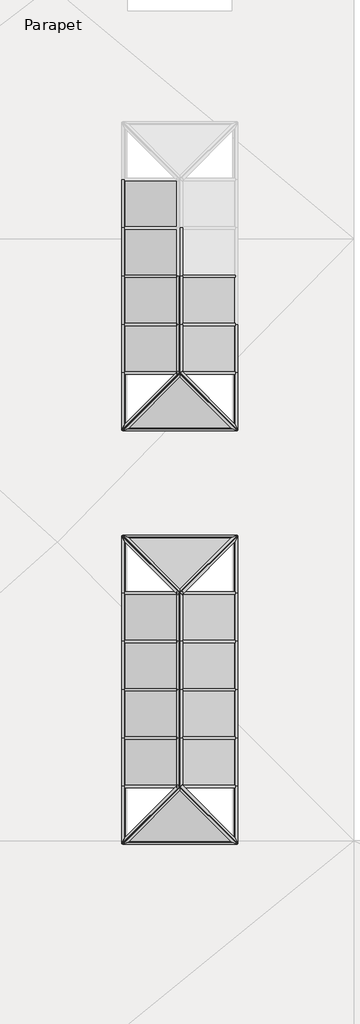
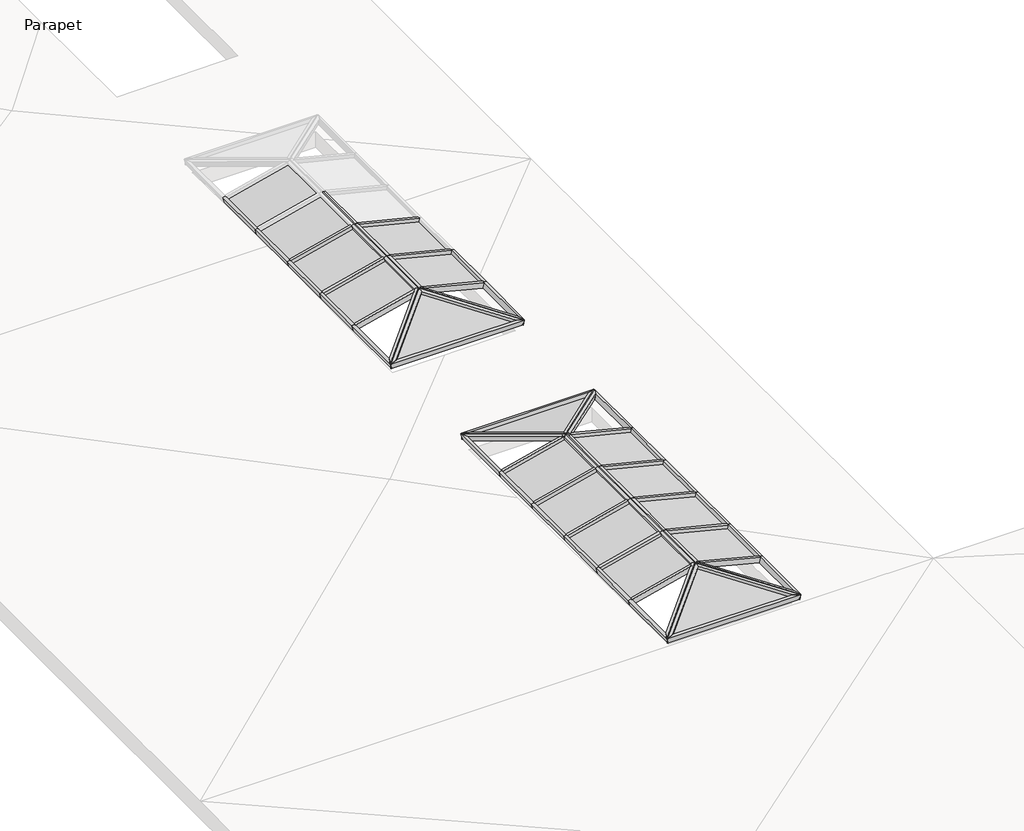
# One storey, part 1 of 2: 63 members, 17 plates.
"""IFC4 building model written with IfcOpenShell, lengths in millimetres."""

import ifcopenshell
import ifcopenshell.guid

model = None  # the IFC model being written
_history = None  # IfcOwnerHistory: only IFC2X3 demands one
_inside = {}  # id of a spatial element -> (the spatial element, [elements in it])
_under = {}  # id of a project, library or spatial element -> (it, [spatial elements below it])
_declared = {}  # id of a project -> (the project, [libraries it declares])
_typed = {}  # id of a type object -> (the type object, [elements of that type])
_made_of = {}  # id of a material, layer set ... -> (it, [elements and type objects made of it])


def new_model(schema):
    """Start an empty IFC model of exactly this schema.

    Asked for "IFC4X3", IfcOpenShell would pick the latest addendum, in which some entities
    have other attributes; the version numbers below select the first issue.
    IFC2X3 requires an IfcOwnerHistory on every rooted entity: one is made here for all.
    """
    global model, _history
    if schema == "IFC4X3":
        model = ifcopenshell.file(schema_version=(4, 3, 0, 0))
    else:
        model = ifcopenshell.file(schema=schema)
    _inside.clear()
    _under.clear()
    _declared.clear()
    _typed.clear()
    _made_of.clear()
    _history = None
    if model.schema == "IFC2X3":
        org = make("IfcOrganization", Name="unknown")
        user = make(
            "IfcPersonAndOrganization",
            ThePerson=make("IfcPerson", FamilyName="unknown"),
            TheOrganization=org,
        )
        app = make(
            "IfcApplication",
            ApplicationDeveloper=org,
            Version="unknown",
            ApplicationFullName="unknown",
            ApplicationIdentifier="unknown",
        )
        _history = make(
            "IfcOwnerHistory",
            OwningUser=user,
            OwningApplication=app,
            ChangeAction="ADDED",
            CreationDate=0,
        )
    return model


def make(cls, **values):
    """One entity of the class cls with the attributes given. An attribute that is None is left unset."""
    return model.create_entity(
        cls, **{name: value for name, value in values.items() if value is not None}
    )


def rooted(cls, **values):
    """An entity with a GlobalId (a new one), such as an element, a storey or a relation."""
    return make(cls, GlobalId=ifcopenshell.guid.new(), OwnerHistory=_history, **values)


def si_unit(unit_type, name, prefix=None):
    """IfcSIUnit, for example si_unit("LENGTHUNIT", "METRE", prefix="MILLI")."""
    return make("IfcSIUnit", UnitType=unit_type, Prefix=prefix, Name=name)


def assignment(units):
    """IfcUnitAssignment: the units of a project."""
    return None if units is None else make("IfcUnitAssignment", Units=units)


def point(xyz):
    """IfcCartesianPoint."""
    return None if xyz is None else make("IfcCartesianPoint", Coordinates=xyz)


def direction(xyz):
    """IfcDirection."""
    return None if xyz is None else make("IfcDirection", DirectionRatios=xyz)


def frame(location, z_axis=None, x_axis=None):
    """IfcAxis2Placement3D, a coordinate frame: its origin and axes. An axis left out is left unset."""
    return make(
        "IfcAxis2Placement3D",
        Location=point(location),
        Axis=direction(z_axis),
        RefDirection=direction(x_axis),
    )


def origin():
    """The frame at (0, 0, 0) with its axes left unset."""
    return frame((0.0, 0.0, 0.0))


def origin_with_axes():
    """The frame at (0, 0, 0) with the z axis (0, 0, 1) and the x axis (1, 0, 0) written out."""
    return frame((0.0, 0.0, 0.0), z_axis=(0.0, 0.0, 1.0), x_axis=(1.0, 0.0, 0.0))


def place(relative_to, where):
    """IfcLocalPlacement: puts the frame where relative to a parent placement (None: the world)."""
    return make(
        "IfcLocalPlacement", PlacementRelTo=relative_to, RelativePlacement=where
    )


def context(
    kind, dimensions, precision=None, world=None, true_north=None, identifier=None
):
    """IfcGeometricRepresentationContext, for example the 3D "Model" context."""
    return make(
        "IfcGeometricRepresentationContext",
        ContextIdentifier=identifier,
        ContextType=kind,
        CoordinateSpaceDimension=dimensions,
        Precision=precision,
        WorldCoordinateSystem=world,
        TrueNorth=true_north,
    )


def project(units=None, contexts=None):
    """IfcProject with its units and contexts."""
    return rooted(
        "IfcProject",
        Name="project",
        RepresentationContexts=contexts,
        UnitsInContext=assignment(units),
    )


def spatial(cls, under=None, at=None, **own):
    """A site, building, storey or space (cls), placed at a placement, below another one or the project."""
    s = rooted(cls, ObjectPlacement=at, **own)
    if under is not None:
        _under.setdefault(under.id(), (under, []))[1].append(s)
    return s


def polyline(points):
    """IfcPolyline through the points."""
    return make("IfcPolyline", Points=[point(p) for p in points])


def outline(outer, holes=None, kind="AREA"):
    """IfcArbitraryClosedProfileDef: a profile drawn as a closed curve; with holes, ...WithVoids."""
    if holes is None:
        return make("IfcArbitraryClosedProfileDef", ProfileType=kind, OuterCurve=outer)
    return make(
        "IfcArbitraryProfileDefWithVoids",
        ProfileType=kind,
        OuterCurve=outer,
        InnerCurves=holes,
    )


def extrude(swept, where, along, depth):
    """IfcExtrudedAreaSolid: the profile swept, set in the frame where, extruded along a direction by depth."""
    return make(
        "IfcExtrudedAreaSolid",
        SweptArea=swept,
        Position=where,
        ExtrudedDirection=direction(along),
        Depth=depth,
    )


def shape(context_of_items, identifier, shape_type, items):
    """IfcShapeRepresentation: the items that make up one representation, for example the "Body"."""
    return make(
        "IfcShapeRepresentation",
        ContextOfItems=context_of_items,
        RepresentationIdentifier=identifier,
        RepresentationType=shape_type,
        Items=items,
    )


def source(mapping_origin, context_of_items, identifier, shape_type, items):
    """IfcRepresentationMap: a shape defined once, which mapped items show again and again."""
    return make(
        "IfcRepresentationMap",
        MappingOrigin=mapping_origin,
        MappedRepresentation=shape(context_of_items, identifier, shape_type, items),
    )


def transform(
    local_origin,
    x_axis=None,
    y_axis=None,
    z_axis=None,
    scale=None,
    scale2=None,
    scale3=None,
    uniform=True,
):
    """IfcCartesianTransformationOperator3D, or its non-uniform kind. x_axis, y_axis, z_axis: its Axis1, 2, 3."""
    if uniform:
        return make(
            "IfcCartesianTransformationOperator3D",
            Axis1=direction(x_axis),
            Axis2=direction(y_axis),
            LocalOrigin=point(local_origin),
            Scale=scale,
            Axis3=direction(z_axis),
        )
    return make(
        "IfcCartesianTransformationOperator3DnonUniform",
        Axis1=direction(x_axis),
        Axis2=direction(y_axis),
        LocalOrigin=point(local_origin),
        Scale=scale,
        Axis3=direction(z_axis),
        Scale2=scale2,
        Scale3=scale3,
    )


def mapped(mapping_source, mapping_target):
    """IfcMappedItem: shows the shape of a source again, moved by a transform."""
    return make(
        "IfcMappedItem", MappingSource=mapping_source, MappingTarget=mapping_target
    )


def made_of(thing, what):
    """Note that an element or type object is made of a material, layer set ...; save() writes the relation."""
    if what is not None:
        _made_of.setdefault(what.id(), (what, []))[1].append(thing)
    return thing


def element(
    cls,
    number,
    at=None,
    inside=None,
    cuts=None,
    type_object=None,
    material=None,
    context=None,
    identifier="Body",
    shape_type=None,
    held_by="IfcProductDefinitionShape",
    body=None,
    shapes=None,
    **own,
):
    """One element of the class cls, such as IfcWall. Its Tag is "e" and its number.

    at: its placement. inside: the storey or other place that contains it. cuts: it is an
    opening in that element (IfcRelVoidsElement). A single representation is given by context,
    identifier, shape_type and body (its items); several are given by shapes. held_by: the class
    of the entity that holds the representations. save() writes the other relations.
    """
    e = rooted(cls, Tag="e%d" % number, ObjectPlacement=at, **own)
    if body is not None:
        shapes = [shape(context, identifier, shape_type, body)]
    if shapes is not None:
        e.Representation = make(held_by, Representations=shapes)
    if inside is not None:
        _inside.setdefault(inside.id(), (inside, []))[1].append(e)
    if cuts is not None:
        rooted(
            "IfcRelVoidsElement", RelatingBuildingElement=cuts, RelatedOpeningElement=e
        )
    if type_object is not None:
        _typed.setdefault(type_object.id(), (type_object, []))[1].append(e)
    return made_of(e, material)


def aggregate(whole, parts):
    """IfcRelAggregates: a whole, such as a stair, and the parts it consists of."""
    return rooted("IfcRelAggregates", RelatingObject=whole, RelatedObjects=parts)


def save(model, path):
    """Write the relations noted so far, then the file.

    IfcRelAggregates (storeys below a building ...), IfcRelContainedInSpatialStructure (elements
    in a storey), IfcRelDefinesByType, IfcRelAssociatesMaterial and IfcRelDeclares: one each for
    every whole, place, type object, material and project.
    """
    for whole, parts in _under.values():
        aggregate(whole, parts)
    for where, things in _inside.values():
        rooted(
            "IfcRelContainedInSpatialStructure",
            RelatedElements=things,
            RelatingStructure=where,
        )
    for kind, things in _typed.values():
        rooted("IfcRelDefinesByType", RelatedObjects=things, RelatingType=kind)
    for what, things in _made_of.values():
        rooted("IfcRelAssociatesMaterial", RelatedObjects=things, RelatingMaterial=what)
    for by, libraries in _declared.values():
        rooted("IfcRelDeclares", RelatingContext=by, RelatedDefinitions=libraries)
    model.write(path)


def member_01a96303(model_context):
    return source(origin(), model_context, "Body", "SweptSolid", [
        extrude(outline(polyline([(31.75, 63.5), (31.75, -63.5), (-31.75, -63.5), (-31.75, 63.5), (31.75, 63.5)])), frame((0.0, 0.0, -1441.8416906), z_axis=(0.0, 0.0, 1.0), x_axis=(1.0, 0.0, 0.0)), (0.0, 0.0, 1.0), 1441.8416906),
    ])


def member_1078ffe1(model_context):
    return source(origin(), model_context, "Body", "SweptSolid", [
        extrude(outline(polyline([(0.0, 0.0), (-150.0761281, -63.5), (-1524.0, -63.5), (-1524.0, 0.0), (0.0, 0.0)])), frame((0.0, -63.5, 0.0), z_axis=(0.0, 1.0, 0.0), x_axis=(0.0, 0.0, 1.0)), (0.0, 0.0, 1.0), 127.0),
    ])


def member_190da285(model_context):
    return source(origin(), model_context, "Body", "SweptSolid", [
        extrude(outline(polyline([(0.0, 0.0), (-150.0761281, -63.5), (-2185.8060871, -63.5), (-2185.8060871, 0.0), (0.0, 0.0)])), frame((0.0, -63.5, 0.0), z_axis=(0.0, 1.0, 0.0), x_axis=(0.0, 0.0, 1.0)), (0.0, 0.0, 1.0), 127.0),
    ])


def member_63bf33d2(model_context):
    return source(origin(), model_context, "Body", "SweptSolid", [
        extrude(outline(polyline([(0.0, 0.0), (0.0, -63.5), (-2035.729959, -63.5), (-2185.8060871, 0.0), (0.0, 0.0)])), frame((0.0, -63.5, 0.0), z_axis=(0.0, 1.0, 0.0), x_axis=(0.0, 0.0, 1.0)), (0.0, 0.0, 1.0), 127.0),
    ])


def member_51997095(model_context):
    return source(origin(), model_context, "Body", "SweptSolid", [
        extrude(outline(polyline([(0.0, 63.5), (0.0, -63.5), (-63.5, -63.5), (-63.5, 63.5), (0.0, 63.5)])), frame((0.0, 0.0, -1314.45), z_axis=(0.0, 0.0, 1.0), x_axis=(1.0, 0.0, 0.0)), (0.0, 0.0, 1.0), 1314.45),
    ])


def member_5783932f(model_context):
    return source(origin(), model_context, "Body", "SweptSolid", [
        extrude(outline(polyline([(0.0, 63.5), (0.0, -63.5), (-63.5, -63.5), (-63.5, 63.5), (0.0, 63.5)])), frame((0.0, 0.0, -1282.7), z_axis=(0.0, 0.0, 1.0), x_axis=(1.0, 0.0, 0.0)), (0.0, 0.0, 1.0), 1282.7),
    ])


def member_8e9367d3(model_context):
    return source(origin(), model_context, "Body", "SweptSolid", [
        extrude(outline(polyline([(0.0, 0.0), (0.0, -63.5), (-1373.9238719, -63.5), (-1524.0, 0.0), (0.0, 0.0)])), frame((0.0, -63.5, 0.0), z_axis=(0.0, 1.0, 0.0), x_axis=(0.0, 0.0, 1.0)), (0.0, 0.0, 1.0), 127.0),
    ])


def member_bf957473(model_context):
    return source(origin(), model_context, "Body", "SweptSolid", [
        extrude(outline(polyline([(0.0, 0.0), (-150.0761281, -63.5), (-2120.3517853, -63.5), (-2185.8060871, 0.0), (0.0, 0.0)])), frame((0.0, -63.5, 0.0), z_axis=(0.0, 1.0, 0.0), x_axis=(0.0, 0.0, 1.0)), (0.0, 0.0, 1.0), 127.0),
    ])


def member_35848865(model_context):
    return source(origin(), model_context, "Body", "SweptSolid", [
        extrude(outline(polyline([(0.0, 0.0), (-65.4543018, -63.5), (-2035.729959, -63.5), (-2185.8060871, 0.0), (0.0, 0.0)])), frame((0.0, -63.5, 0.0), z_axis=(0.0, 1.0, 0.0), x_axis=(0.0, 0.0, 1.0)), (0.0, 0.0, 1.0), 127.0),
    ])


def member_aca151d9(model_context):
    return source(origin(), model_context, "Body", "SweptSolid", [
        extrude(outline(polyline([(0.0, 0.0), (-150.0761281, -63.5), (-2893.923872, -63.5), (-3044.0000001, 0.0), (0.0, 0.0)])), frame((0.0, -63.5, 0.0), z_axis=(0.0, 1.0, 0.0), x_axis=(0.0, 0.0, 1.0)), (0.0, 0.0, 1.0), 127.0),
    ])


def system_panel_glazed_08fbef77(model_context):
    return source(origin(), model_context, "Body", "SweptSolid", [
        extrude(outline(polyline([(609.6, 19.05), (-609.6, 19.05), (-609.6, 44.45), (609.6, 44.45), (609.6, 19.05)])), origin_with_axes(), (0.0, 0.0, 1.0), 1441.8416906),
    ])


def system_panel_glazed_1440a41f(model_context):
    return source(origin(), model_context, "Body", "SweptSolid", [
        extrude(outline(polyline([(0.0, -1371.923872), (0.0, 1371.923872), (1414.1467586, 0.0), (0.0, -1371.923872)])), frame((0.0, 19.05, 0.0), z_axis=(0.0, 1.0, 0.0), x_axis=(0.0, 0.0, 1.0)), (0.0, 0.0, 1.0), 25.4),
    ])


model = new_model("IFC4")

# Units and contexts
model_context = context("Model", 3, world=origin())
ifc_project = project(units=[si_unit("LENGTHUNIT", "METRE", prefix="MILLI")], contexts=[model_context])

# Site, building, storey
site = spatial("IfcSite", under=ifc_project)
building = spatial("IfcBuilding", under=site)
storey = spatial("IfcBuildingStorey", under=building, Name="Parapet", Elevation=11582.4)

# Members
placement = place(None, origin())
member_shape = member_01a96303(model_context)
element("IfcMember", 1, ObjectType="Rectangular Mullion : 2.5\" x 5\" rectangular", at=placement, inside=storey, context=model_context, shape_type="MappedRepresentation", body=[
    mapped(member_shape, transform((12528.5354039, 23317.5989878, 11947.4989878), x_axis=(0.0, 1.0, 0.0), y_axis=(-0.24253562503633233, 0.0, -0.9701425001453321), z_axis=(-0.9701425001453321, 0.0, 0.24253562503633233))),
])
element("IfcMember", 2, ObjectType="Rectangular Mullion : 2.5\" x 5\" rectangular", at=placement, inside=storey, context=model_context, shape_type="MappedRepresentation", body=[
    mapped(member_shape, transform((12528.5354039, 25882.9989878, 11947.4989878), x_axis=(0.0, 1.0, 0.0), y_axis=(-0.24253562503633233, 0.0, -0.9701425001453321), z_axis=(-0.9701425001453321, 0.0, 0.24253562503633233))),
])
element("IfcMember", 3, ObjectType="Rectangular Mullion : 2.5\" x 5\" rectangular", at=placement, inside=storey, context=model_context, shape_type="MappedRepresentation", body=[
    mapped(member_shape, transform((12528.5354039, 24600.2989878, 11947.4989878), x_axis=(0.0, 1.0, 0.0), y_axis=(-0.24253562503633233, 0.0, -0.9701425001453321), z_axis=(-0.9701425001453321, 0.0, 0.24253562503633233))),
])
element("IfcMember", 4, ObjectType="Rectangular Mullion : 2.5\" x 5\" rectangular", at=placement, inside=storey, context=model_context, shape_type="MappedRepresentation", body=[
    mapped(member_shape, transform((12405.3273064, 23317.5989878, 11947.4989878), x_axis=(0.0, -1.0, 0.0), y_axis=(0.24253562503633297, 0.0, -0.9701425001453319), z_axis=(0.9701425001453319, 0.0, 0.24253562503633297))),
])
element("IfcMember", 5, ObjectType="Rectangular Mullion : 2.5\" x 5\" rectangular", at=placement, inside=storey, context=model_context, shape_type="MappedRepresentation", body=[
    mapped(member_shape, transform((12405.3273064, 25882.9989878, 11947.4989878), x_axis=(0.0, -1.0, 0.0), y_axis=(0.24253562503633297, 0.0, -0.9701425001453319), z_axis=(0.9701425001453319, 0.0, 0.24253562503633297))),
])
element("IfcMember", 6, ObjectType="Rectangular Mullion : 2.5\" x 5\" rectangular", at=placement, inside=storey, context=model_context, shape_type="MappedRepresentation", body=[
    mapped(member_shape, transform((12405.3273064, 24600.2989878, 11947.4989878), x_axis=(0.0, -1.0, 0.0), y_axis=(0.24253562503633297, 0.0, -0.9701425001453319), z_axis=(0.9701425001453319, 0.0, 0.24253562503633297))),
])
element("IfcMember", 7, ObjectType="Rectangular Mullion : 2.5\" x 5\" rectangular", at=placement, inside=storey, context=model_context, shape_type="MappedRepresentation", body=[
    mapped(member_shape, transform((12528.5354039, 12344.7989878, 11947.4989878), x_axis=(0.0, 1.0, 0.0), y_axis=(-0.24253562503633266, 0.0, -0.9701425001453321), z_axis=(-0.9701425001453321, 0.0, 0.24253562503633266))),
])
element("IfcMember", 8, ObjectType="Rectangular Mullion : 2.5\" x 5\" rectangular", at=placement, inside=storey, context=model_context, shape_type="MappedRepresentation", body=[
    mapped(member_shape, transform((12528.5354039, 17475.5989878, 11947.4989878), x_axis=(0.0, 1.0, 0.0), y_axis=(-0.24253562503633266, 0.0, -0.9701425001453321), z_axis=(-0.9701425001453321, 0.0, 0.24253562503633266))),
])
element("IfcMember", 9, ObjectType="Rectangular Mullion : 2.5\" x 5\" rectangular", at=placement, inside=storey, context=model_context, shape_type="MappedRepresentation", body=[
    mapped(member_shape, transform((12528.5354039, 14910.1989878, 11947.4989878), x_axis=(0.0, 1.0, 0.0), y_axis=(-0.24253562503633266, 0.0, -0.9701425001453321), z_axis=(-0.9701425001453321, 0.0, 0.24253562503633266))),
])
element("IfcMember", 10, ObjectType="Rectangular Mullion : 2.5\" x 5\" rectangular", at=placement, inside=storey, context=model_context, shape_type="MappedRepresentation", body=[
    mapped(member_shape, transform((12528.5354039, 16192.8989878, 11947.4989878), x_axis=(0.0, 1.0, 0.0), y_axis=(-0.24253562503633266, 0.0, -0.9701425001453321), z_axis=(-0.9701425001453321, 0.0, 0.24253562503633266))),
])
element("IfcMember", 11, ObjectType="Rectangular Mullion : 2.5\" x 5\" rectangular", at=placement, inside=storey, context=model_context, shape_type="MappedRepresentation", body=[
    mapped(member_shape, transform((12528.5354039, 13627.4989878, 11947.4989878), x_axis=(0.0, 1.0, 0.0), y_axis=(-0.24253562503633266, 0.0, -0.9701425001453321), z_axis=(-0.9701425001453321, 0.0, 0.24253562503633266))),
])
element("IfcMember", 12, ObjectType="Rectangular Mullion : 2.5\" x 5\" rectangular", at=placement, inside=storey, context=model_context, shape_type="MappedRepresentation", body=[
    mapped(member_shape, transform((12405.3273064, 17475.5989878, 11947.4989878), x_axis=(0.0, -1.0, 0.0), y_axis=(0.24253562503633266, 0.0, -0.9701425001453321), z_axis=(0.9701425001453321, 0.0, 0.24253562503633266))),
])
element("IfcMember", 13, ObjectType="Rectangular Mullion : 2.5\" x 5\" rectangular", at=placement, inside=storey, context=model_context, shape_type="MappedRepresentation", body=[
    mapped(member_shape, transform((12405.3273064, 12344.7989878, 11947.4989878), x_axis=(0.0, -1.0, 0.0), y_axis=(0.24253562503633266, 0.0, -0.9701425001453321), z_axis=(0.9701425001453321, 0.0, 0.24253562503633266))),
])
element("IfcMember", 14, ObjectType="Rectangular Mullion : 2.5\" x 5\" rectangular", at=placement, inside=storey, context=model_context, shape_type="MappedRepresentation", body=[
    mapped(member_shape, transform((12405.3273064, 14910.1989878, 11947.4989878), x_axis=(0.0, -1.0, 0.0), y_axis=(0.24253562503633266, 0.0, -0.9701425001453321), z_axis=(0.9701425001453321, 0.0, 0.24253562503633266))),
])
element("IfcMember", 15, ObjectType="Rectangular Mullion : 2.5\" x 5\" rectangular", at=placement, inside=storey, context=model_context, shape_type="MappedRepresentation", body=[
    mapped(member_shape, transform((12405.3273064, 13627.4989878, 11947.4989878), x_axis=(0.0, -1.0, 0.0), y_axis=(0.24253562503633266, 0.0, -0.9701425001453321), z_axis=(0.9701425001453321, 0.0, 0.24253562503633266))),
])
element("IfcMember", 16, ObjectType="Rectangular Mullion : 2.5\" x 5\" rectangular", at=placement, inside=storey, context=model_context, shape_type="MappedRepresentation", body=[
    mapped(member_shape, transform((12405.3273064, 16192.8989878, 11947.4989878), x_axis=(0.0, -1.0, 0.0), y_axis=(0.24253562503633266, 0.0, -0.9701425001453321), z_axis=(0.9701425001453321, 0.0, 0.24253562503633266))),
])
member_2_shape = member_1078ffe1(model_context)
element("IfcMember", 17, ObjectType="Rectangular Mullion : 2.5\" x 5\" rectangular", at=placement, inside=storey, context=model_context, shape_type="MappedRepresentation", body=[
    mapped(member_2_shape, transform((10944.9313551, 21793.5989878, 11582.4), x_axis=(-0.970142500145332, 0.0, -0.242535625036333), y_axis=(0.242535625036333, 0.0, -0.970142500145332), z_axis=(0.0, -1.0, 0.0))),
])
element("IfcMember", 18, ObjectType="Rectangular Mullion : 2.5\" x 5\" rectangular", at=placement, inside=storey, context=model_context, shape_type="MappedRepresentation", body=[
    mapped(member_2_shape, transform((13988.9313552, 18999.5989878, 11582.4), x_axis=(0.970142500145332, 0.0, -0.242535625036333), y_axis=(-0.242535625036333, 0.0, -0.970142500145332), z_axis=(0.0, 1.0, 0.0))),
])
element("IfcMember", 19, ObjectType="Rectangular Mullion : 2.5\" x 5\" rectangular", at=placement, inside=storey, context=model_context, shape_type="MappedRepresentation", body=[
    mapped(member_2_shape, transform((10944.9313551, 10820.7989878, 11582.4), x_axis=(-0.970142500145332, 0.0, -0.242535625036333), y_axis=(0.242535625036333, 0.0, -0.970142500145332), z_axis=(0.0, -1.0, 0.0))),
])
member_3_shape = member_190da285(model_context)
element("IfcMember", 20, ObjectType="Rectangular Mullion : 2.5\" x 5\" rectangular", at=placement, inside=storey, context=model_context, shape_type="MappedRepresentation", body=[
    mapped(member_3_shape, transform((13988.9313552, 21793.5989878, 11582.4), x_axis=(-0.6755205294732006, -0.7177405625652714, 0.16888013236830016), y_axis=(-0.24253562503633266, 0.0, -0.970142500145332), z_axis=(0.6963106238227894, -0.6963106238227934, -0.17407765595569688))),
])
element("IfcMember", 21, ObjectType="Rectangular Mullion : 2.5\" x 5\" rectangular", at=placement, inside=storey, context=model_context, shape_type="MappedRepresentation", body=[
    mapped(member_3_shape, transform((13988.9313552, 10820.7989878, 11582.4), x_axis=(-0.6755205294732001, -0.717740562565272, 0.16888013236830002), y_axis=(-0.2425356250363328, 0.0, -0.970142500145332), z_axis=(0.69631062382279, -0.6963106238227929, -0.17407765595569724))),
])
member_4_shape = member_63bf33d2(model_context)
element("IfcMember", 22, ObjectType="Rectangular Mullion : 2.5\" x 5\" rectangular", at=placement, inside=storey, context=model_context, shape_type="MappedRepresentation", body=[
    mapped(member_4_shape, transform((12466.9313552, 17477.5989877, 11962.9), x_axis=(-0.6755205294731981, 0.717740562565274, 0.16888013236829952), y_axis=(-0.24253562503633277, 0.0, -0.9701425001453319), z_axis=(-0.6963106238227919, -0.6963106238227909, 0.1740776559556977))),
])
member_5_shape = member_51997095(model_context)
element("IfcMember", 23, ObjectType="Rectangular Mullion : 2.5\" x 5\" rectangular", at=placement, inside=storey, context=model_context, shape_type="MappedRepresentation", body=[
    mapped(member_5_shape, transform((12466.9313552, 23285.8489878, 11962.9), x_axis=(-0.970142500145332, 0.0, 0.242535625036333), y_axis=(-0.242535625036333, 0.0, -0.970142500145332), z_axis=(0.0, -1.0, 0.0))),
])
element("IfcMember", 24, ObjectType="Rectangular Mullion : 2.5\" x 5\" rectangular", at=placement, inside=storey, context=model_context, shape_type="MappedRepresentation", body=[
    mapped(member_5_shape, transform((12466.9313552, 12313.0489878, 11962.9), x_axis=(-0.970142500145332, 0.0, 0.242535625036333), y_axis=(-0.242535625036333, 0.0, -0.970142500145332), z_axis=(0.0, -1.0, 0.0))),
])
element("IfcMember", 25, ObjectType="Rectangular Mullion : 2.5\" x 5\" rectangular", at=placement, inside=storey, context=model_context, shape_type="MappedRepresentation", body=[
    mapped(member_5_shape, transform((12466.9313552, 17507.3489878, 11962.9), x_axis=(0.970142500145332, 0.0, 0.242535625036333), y_axis=(0.242535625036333, 0.0, -0.970142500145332), z_axis=(0.0, 1.0, 0.0))),
])
member_6_shape = member_5783932f(model_context)
element("IfcMember", 26, ObjectType="Rectangular Mullion : 2.5\" x 5\" rectangular", at=placement, inside=storey, context=model_context, shape_type="MappedRepresentation", body=[
    mapped(member_6_shape, transform((12466.9313552, 25882.9989878, 11962.9), x_axis=(-0.970142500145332, 0.0, 0.242535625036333), y_axis=(-0.242535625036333, 0.0, -0.970142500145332), z_axis=(0.0, -1.0, 0.0))),
])
element("IfcMember", 27, ObjectType="Rectangular Mullion : 2.5\" x 5\" rectangular", at=placement, inside=storey, context=model_context, shape_type="MappedRepresentation", body=[
    mapped(member_6_shape, transform((12466.9313552, 24600.2989878, 11962.9), x_axis=(-0.970142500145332, 0.0, 0.242535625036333), y_axis=(-0.242535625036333, 0.0, -0.970142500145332), z_axis=(0.0, -1.0, 0.0))),
])
element("IfcMember", 28, ObjectType="Rectangular Mullion : 2.5\" x 5\" rectangular", at=placement, inside=storey, context=model_context, shape_type="MappedRepresentation", body=[
    mapped(member_6_shape, transform((12466.9313552, 25882.9989878, 11962.9), x_axis=(0.970142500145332, 0.0, 0.242535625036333), y_axis=(0.242535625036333, 0.0, -0.970142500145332), z_axis=(0.0, 1.0, 0.0))),
])
element("IfcMember", 29, ObjectType="Rectangular Mullion : 2.5\" x 5\" rectangular", at=placement, inside=storey, context=model_context, shape_type="MappedRepresentation", body=[
    mapped(member_6_shape, transform((12466.9313552, 14910.1989878, 11962.9), x_axis=(-0.970142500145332, 0.0, 0.242535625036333), y_axis=(-0.242535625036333, 0.0, -0.970142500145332), z_axis=(0.0, -1.0, 0.0))),
])
element("IfcMember", 30, ObjectType="Rectangular Mullion : 2.5\" x 5\" rectangular", at=placement, inside=storey, context=model_context, shape_type="MappedRepresentation", body=[
    mapped(member_6_shape, transform((12466.9313552, 13627.4989878, 11962.9), x_axis=(-0.970142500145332, 0.0, 0.242535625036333), y_axis=(-0.242535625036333, 0.0, -0.970142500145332), z_axis=(0.0, -1.0, 0.0))),
])
element("IfcMember", 31, ObjectType="Rectangular Mullion : 2.5\" x 5\" rectangular", at=placement, inside=storey, context=model_context, shape_type="MappedRepresentation", body=[
    mapped(member_6_shape, transform((12466.9313552, 14910.1989878, 11962.9), x_axis=(0.970142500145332, 0.0, 0.242535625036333), y_axis=(0.242535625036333, 0.0, -0.970142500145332), z_axis=(0.0, 1.0, 0.0))),
])
element("IfcMember", 32, ObjectType="Rectangular Mullion : 2.5\" x 5\" rectangular", at=placement, inside=storey, context=model_context, shape_type="MappedRepresentation", body=[
    mapped(member_6_shape, transform((12466.9313552, 16192.8989878, 11962.9), x_axis=(0.970142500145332, 0.0, 0.242535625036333), y_axis=(0.242535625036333, 0.0, -0.970142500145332), z_axis=(0.0, 1.0, 0.0))),
])
element("IfcMember", 33, ObjectType="Rectangular Mullion : 2.5\" x 5\" rectangular", at=placement, inside=storey, context=model_context, shape_type="MappedRepresentation", body=[
    mapped(member_5_shape, transform((12466.9313552, 24600.2989878, 11962.9), x_axis=(0.970142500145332, 0.0, 0.242535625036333), y_axis=(0.242535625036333, 0.0, -0.970142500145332), z_axis=(0.0, 1.0, 0.0))),
])
element("IfcMember", 34, ObjectType="Rectangular Mullion : 2.5\" x 5\" rectangular", at=placement, inside=storey, context=model_context, shape_type="MappedRepresentation", body=[
    mapped(member_5_shape, transform((12466.9313552, 16192.8989878, 11962.9), x_axis=(-0.970142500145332, 0.0, 0.242535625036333), y_axis=(-0.242535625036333, 0.0, -0.970142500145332), z_axis=(0.0, -1.0, 0.0))),
])
element("IfcMember", 35, ObjectType="Rectangular Mullion : 2.5\" x 5\" rectangular", at=placement, inside=storey, context=model_context, shape_type="MappedRepresentation", body=[
    mapped(member_5_shape, transform((12466.9313552, 13627.4989878, 11962.9), x_axis=(0.970142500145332, 0.0, 0.242535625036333), y_axis=(0.242535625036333, 0.0, -0.970142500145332), z_axis=(0.0, 1.0, 0.0))),
])
member_7_shape = member_8e9367d3(model_context)
element("IfcMember", 36, ObjectType="Rectangular Mullion : 2.5\" x 5\" rectangular", at=placement, inside=storey, context=model_context, shape_type="MappedRepresentation", body=[
    mapped(member_7_shape, transform((13988.9313552, 23317.5989878, 11582.4), x_axis=(0.970142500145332, 0.0, -0.242535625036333), y_axis=(-0.242535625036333, 0.0, -0.970142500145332), z_axis=(0.0, 1.0, 0.0))),
])
element("IfcMember", 37, ObjectType="Rectangular Mullion : 2.5\" x 5\" rectangular", at=placement, inside=storey, context=model_context, shape_type="MappedRepresentation", body=[
    mapped(member_7_shape, transform((13988.9313552, 12344.7989878, 11582.4), x_axis=(0.970142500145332, 0.0, -0.242535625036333), y_axis=(-0.242535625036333, 0.0, -0.970142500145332), z_axis=(0.0, 1.0, 0.0))),
])
element("IfcMember", 38, ObjectType="Rectangular Mullion : 2.5\" x 5\" rectangular", at=placement, inside=storey, context=model_context, shape_type="MappedRepresentation", body=[
    mapped(member_7_shape, transform((10944.9313551, 17475.5989878, 11582.4), x_axis=(-0.970142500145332, 0.0, -0.242535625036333), y_axis=(0.242535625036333, 0.0, -0.970142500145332), z_axis=(0.0, -1.0, 0.0))),
])
element("IfcMember", 39, ObjectType="Rectangular Mullion : 2.5\" x 5\" rectangular", at=placement, inside=storey, context=model_context, shape_type="MappedRepresentation", body=[
    mapped(member_6_shape, transform((13988.9313552, 24600.2989878, 11582.4), x_axis=(0.970142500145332, 0.0, -0.242535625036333), y_axis=(-0.242535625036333, 0.0, -0.970142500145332), z_axis=(0.0, 1.0, 0.0))),
])
element("IfcMember", 40, ObjectType="Rectangular Mullion : 2.5\" x 5\" rectangular", at=placement, inside=storey, context=model_context, shape_type="MappedRepresentation", body=[
    mapped(member_6_shape, transform((10944.9313551, 25882.9989878, 11582.4), x_axis=(-0.970142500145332, 0.0, -0.242535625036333), y_axis=(0.242535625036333, 0.0, -0.970142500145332), z_axis=(0.0, -1.0, 0.0))),
])
element("IfcMember", 41, ObjectType="Rectangular Mullion : 2.5\" x 5\" rectangular", at=placement, inside=storey, context=model_context, shape_type="MappedRepresentation", body=[
    mapped(member_6_shape, transform((10944.9313551, 24600.2989878, 11582.4), x_axis=(-0.970142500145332, 0.0, -0.242535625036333), y_axis=(0.242535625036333, 0.0, -0.970142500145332), z_axis=(0.0, -1.0, 0.0))),
])
element("IfcMember", 42, ObjectType="Rectangular Mullion : 2.5\" x 5\" rectangular", at=placement, inside=storey, context=model_context, shape_type="MappedRepresentation", body=[
    mapped(member_6_shape, transform((10944.9313551, 27165.6989878, 11582.4), x_axis=(-0.970142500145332, 0.0, -0.242535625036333), y_axis=(0.242535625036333, 0.0, -0.970142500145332), z_axis=(0.0, -1.0, 0.0))),
])
element("IfcMember", 43, ObjectType="Rectangular Mullion : 2.5\" x 5\" rectangular", at=placement, inside=storey, context=model_context, shape_type="MappedRepresentation", body=[
    mapped(member_6_shape, transform((10944.9313551, 23317.5989878, 11582.4), x_axis=(-0.970142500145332, 0.0, -0.242535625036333), y_axis=(0.242535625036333, 0.0, -0.970142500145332), z_axis=(0.0, -1.0, 0.0))),
])
element("IfcMember", 44, ObjectType="Rectangular Mullion : 2.5\" x 5\" rectangular", at=placement, inside=storey, context=model_context, shape_type="MappedRepresentation", body=[
    mapped(member_6_shape, transform((13988.9313552, 17475.5989878, 11582.4), x_axis=(0.970142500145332, 0.0, -0.242535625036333), y_axis=(-0.242535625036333, 0.0, -0.970142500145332), z_axis=(0.0, 1.0, 0.0))),
])
element("IfcMember", 45, ObjectType="Rectangular Mullion : 2.5\" x 5\" rectangular", at=placement, inside=storey, context=model_context, shape_type="MappedRepresentation", body=[
    mapped(member_6_shape, transform((13988.9313552, 14910.1989878, 11582.4), x_axis=(0.970142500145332, 0.0, -0.242535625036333), y_axis=(-0.242535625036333, 0.0, -0.970142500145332), z_axis=(0.0, 1.0, 0.0))),
])
element("IfcMember", 46, ObjectType="Rectangular Mullion : 2.5\" x 5\" rectangular", at=placement, inside=storey, context=model_context, shape_type="MappedRepresentation", body=[
    mapped(member_6_shape, transform((13988.9313552, 16192.8989878, 11582.4), x_axis=(0.970142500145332, 0.0, -0.242535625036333), y_axis=(-0.242535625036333, 0.0, -0.970142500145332), z_axis=(0.0, 1.0, 0.0))),
])
element("IfcMember", 47, ObjectType="Rectangular Mullion : 2.5\" x 5\" rectangular", at=placement, inside=storey, context=model_context, shape_type="MappedRepresentation", body=[
    mapped(member_6_shape, transform((13988.9313552, 13627.4989878, 11582.4), x_axis=(0.970142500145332, 0.0, -0.242535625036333), y_axis=(-0.242535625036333, 0.0, -0.970142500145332), z_axis=(0.0, 1.0, 0.0))),
])
element("IfcMember", 48, ObjectType="Rectangular Mullion : 2.5\" x 5\" rectangular", at=placement, inside=storey, context=model_context, shape_type="MappedRepresentation", body=[
    mapped(member_6_shape, transform((10944.9313551, 14910.1989878, 11582.4), x_axis=(-0.970142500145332, 0.0, -0.242535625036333), y_axis=(0.242535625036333, 0.0, -0.970142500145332), z_axis=(0.0, -1.0, 0.0))),
])
element("IfcMember", 49, ObjectType="Rectangular Mullion : 2.5\" x 5\" rectangular", at=placement, inside=storey, context=model_context, shape_type="MappedRepresentation", body=[
    mapped(member_6_shape, transform((10944.9313551, 13627.4989878, 11582.4), x_axis=(-0.970142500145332, 0.0, -0.242535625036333), y_axis=(0.242535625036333, 0.0, -0.970142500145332), z_axis=(0.0, -1.0, 0.0))),
])
element("IfcMember", 50, ObjectType="Rectangular Mullion : 2.5\" x 5\" rectangular", at=placement, inside=storey, context=model_context, shape_type="MappedRepresentation", body=[
    mapped(member_6_shape, transform((10944.9313551, 16192.8989878, 11582.4), x_axis=(-0.970142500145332, 0.0, -0.242535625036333), y_axis=(0.242535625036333, 0.0, -0.970142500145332), z_axis=(0.0, -1.0, 0.0))),
])
element("IfcMember", 51, ObjectType="Rectangular Mullion : 2.5\" x 5\" rectangular", at=placement, inside=storey, context=model_context, shape_type="MappedRepresentation", body=[
    mapped(member_6_shape, transform((10944.9313551, 12344.7989878, 11582.4), x_axis=(-0.970142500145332, 0.0, -0.242535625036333), y_axis=(0.242535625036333, 0.0, -0.970142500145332), z_axis=(0.0, -1.0, 0.0))),
])
element("IfcMember", 52, ObjectType="Rectangular Mullion : 2.5\" x 5\" rectangular", at=placement, inside=storey, context=model_context, shape_type="MappedRepresentation", body=[
    mapped(member_3_shape, transform((10944.9313551, 18999.5989878, 11582.4), x_axis=(0.6755205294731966, 0.7177405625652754, 0.1688801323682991), y_axis=(0.24253562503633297, 0.0, -0.970142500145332), z_axis=(-0.6963106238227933, 0.6963106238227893, -0.17407765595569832))),
])
element("IfcMember", 53, ObjectType="Rectangular Mullion : 2.5\" x 5\" rectangular", at=placement, inside=storey, context=model_context, shape_type="MappedRepresentation", body=[
    mapped(member_4_shape, transform((12466.9313552, 23315.5989878, 11962.9), x_axis=(0.6755205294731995, -0.7177405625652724, 0.16888013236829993), y_axis=(0.24253562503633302, 0.0, -0.9701425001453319), z_axis=(0.6963106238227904, 0.6963106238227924, 0.1740776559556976))),
])
element("IfcMember", 54, ObjectType="Rectangular Mullion : 2.5\" x 5\" rectangular", at=placement, inside=storey, context=model_context, shape_type="MappedRepresentation", body=[
    mapped(member_4_shape, transform((12466.9313552, 12342.7989878, 11962.9), x_axis=(0.6755205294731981, -0.717740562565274, 0.16888013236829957), y_axis=(0.24253562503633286, 0.0, -0.9701425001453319), z_axis=(0.696310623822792, 0.696310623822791, 0.17407765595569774))),
])
member_8_shape = member_bf957473(model_context)
element("IfcMember", 55, ObjectType="Rectangular Mullion : 2.5\" x 5\" rectangular", at=placement, inside=storey, context=model_context, shape_type="MappedRepresentation", body=[
    mapped(member_8_shape, transform((10944.9313551, 21793.5989878, 11582.4), x_axis=(-0.7177405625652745, 0.6755205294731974, 0.16888013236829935), y_axis=(0.0, 0.24253562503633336, -0.9701425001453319), z_axis=(-0.6963106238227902, -0.6963106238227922, -0.17407765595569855))),
])
element("IfcMember", 56, ObjectType="Rectangular Mullion : 2.5\" x 5\" rectangular", at=placement, inside=storey, context=model_context, shape_type="MappedRepresentation", body=[
    mapped(member_8_shape, transform((10944.9313551, 10820.7989878, 11582.4), x_axis=(-0.717740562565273, 0.6755205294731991, 0.16888013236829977), y_axis=(0.0, 0.24253562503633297, -0.9701425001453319), z_axis=(-0.696310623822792, -0.696310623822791, -0.17407765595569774))),
])
member_9_shape = member_35848865(model_context)
element("IfcMember", 57, ObjectType="Rectangular Mullion : 2.5\" x 5\" rectangular", at=placement, inside=storey, context=model_context, shape_type="MappedRepresentation", body=[
    mapped(member_9_shape, transform((12466.9313552, 23315.5989878, 11962.9), x_axis=(0.7177405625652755, 0.6755205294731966, 0.16888013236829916), y_axis=(0.0, 0.2425356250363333, -0.9701425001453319), z_axis=(-0.6963106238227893, 0.6963106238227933, 0.1740776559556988))),
])
element("IfcMember", 58, ObjectType="Rectangular Mullion : 2.5\" x 5\" rectangular", at=placement, inside=storey, context=model_context, shape_type="MappedRepresentation", body=[
    mapped(member_9_shape, transform((12466.9313552, 12342.7989878, 11962.9), x_axis=(0.717740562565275, 0.675520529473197, 0.16888013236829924), y_axis=(0.0, 0.242535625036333, -0.970142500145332), z_axis=(-0.6963106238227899, 0.6963106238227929, 0.1740776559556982))),
])
member_10_shape = member_aca151d9(model_context)
element("IfcMember", 59, ObjectType="Rectangular Mullion : 2.5\" x 5\" rectangular", at=placement, inside=storey, context=model_context, shape_type="MappedRepresentation", body=[
    mapped(member_10_shape, transform((13988.9313552, 21793.5989878, 11582.4), x_axis=(0.0, -0.970142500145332, -0.242535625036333), y_axis=(0.0, 0.242535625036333, -0.970142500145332), z_axis=(1.0, 0.0, 0.0))),
])
element("IfcMember", 60, ObjectType="Rectangular Mullion : 2.5\" x 5\" rectangular", at=placement, inside=storey, context=model_context, shape_type="MappedRepresentation", body=[
    mapped(member_10_shape, transform((13988.9313552, 10820.7989878, 11582.4), x_axis=(0.0, -0.970142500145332, -0.242535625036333), y_axis=(0.0, 0.242535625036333, -0.970142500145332), z_axis=(1.0, 0.0, 0.0))),
])
element("IfcMember", 61, ObjectType="Rectangular Mullion : 2.5\" x 5\" rectangular", at=placement, inside=storey, context=model_context, shape_type="MappedRepresentation", body=[
    mapped(member_9_shape, transform((12466.9313552, 17477.5989877, 11962.9), x_axis=(-0.7177405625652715, -0.6755205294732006, 0.16888013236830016), y_axis=(0.0, -0.24253562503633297, -0.9701425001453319), z_axis=(0.6963106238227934, -0.6963106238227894, 0.17407765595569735))),
])
element("IfcMember", 62, ObjectType="Rectangular Mullion : 2.5\" x 5\" rectangular", at=placement, inside=storey, context=model_context, shape_type="MappedRepresentation", body=[
    mapped(member_8_shape, transform((13988.9313552, 18999.5989878, 11582.4), x_axis=(0.717740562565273, -0.6755205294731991, 0.16888013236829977), y_axis=(0.0, -0.24253562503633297, -0.9701425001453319), z_axis=(0.6963106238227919, 0.6963106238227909, -0.1740776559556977))),
])
element("IfcMember", 63, ObjectType="Rectangular Mullion : 2.5\" x 5\" rectangular", at=placement, inside=storey, context=model_context, shape_type="MappedRepresentation", body=[
    mapped(member_10_shape, transform((10944.9313551, 18999.5989878, 11582.4), x_axis=(0.0, 0.970142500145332, -0.242535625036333), y_axis=(0.0, -0.242535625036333, -0.970142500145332), z_axis=(-1.0, 0.0, 0.0))),
])

# Plates
system_panel_glazed_shape = system_panel_glazed_08fbef77(model_context)
element("IfcPlate", 64, ObjectType="System Panel : Glazed", at=placement, inside=storey, context=model_context, shape_type="MappedRepresentation", body=[
    mapped(system_panel_glazed_shape, transform((11006.5354039, 27807.0489878, 11597.8010122), x_axis=(0.0, -1.0, 0.0), y_axis=(0.242535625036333, 0.0, -0.970142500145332), z_axis=(0.970142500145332, 0.0, 0.242535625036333))),
])
element("IfcPlate", 65, ObjectType="System Panel : Glazed", at=placement, inside=storey, context=model_context, shape_type="MappedRepresentation", body=[
    mapped(system_panel_glazed_shape, transform((11006.5354039, 25241.6489878, 11597.8010122), x_axis=(0.0, -1.0, 0.0), y_axis=(0.242535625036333, 0.0, -0.970142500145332), z_axis=(0.970142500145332, 0.0, 0.242535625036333))),
])
element("IfcPlate", 66, ObjectType="System Panel : Glazed", at=placement, inside=storey, context=model_context, shape_type="MappedRepresentation", body=[
    mapped(system_panel_glazed_shape, transform((11006.5354039, 23958.9489878, 11597.8010122), x_axis=(0.0, -1.0, 0.0), y_axis=(0.242535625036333, 0.0, -0.970142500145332), z_axis=(0.970142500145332, 0.0, 0.242535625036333))),
])
element("IfcPlate", 67, ObjectType="System Panel : Glazed", at=placement, inside=storey, context=model_context, shape_type="MappedRepresentation", body=[
    mapped(system_panel_glazed_shape, transform((11006.5354039, 26524.3489878, 11597.8010122), x_axis=(0.0, -1.0, 0.0), y_axis=(0.242535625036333, 0.0, -0.970142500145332), z_axis=(0.970142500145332, 0.0, 0.242535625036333))),
])
element("IfcPlate", 68, ObjectType="System Panel : Glazed", at=placement, inside=storey, context=model_context, shape_type="MappedRepresentation", body=[
    mapped(system_panel_glazed_shape, transform((13927.3273065, 23958.9489878, 11597.8010122), x_axis=(0.0, 1.0, 0.0), y_axis=(-0.242535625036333, 0.0, -0.970142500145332), z_axis=(-0.970142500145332, 0.0, 0.242535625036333))),
])
element("IfcPlate", 69, ObjectType="System Panel : Glazed", at=placement, inside=storey, context=model_context, shape_type="MappedRepresentation", body=[
    mapped(system_panel_glazed_shape, transform((13927.3273065, 25241.6489878, 11597.8010122), x_axis=(0.0, 1.0, 0.0), y_axis=(-0.242535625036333, 0.0, -0.970142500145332), z_axis=(-0.970142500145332, 0.0, 0.242535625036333))),
])
element("IfcPlate", 70, ObjectType="System Panel : Glazed", at=placement, inside=storey, context=model_context, shape_type="MappedRepresentation", body=[
    mapped(system_panel_glazed_shape, transform((11006.5354039, 16834.2489878, 11597.8010122), x_axis=(0.0, -1.0, 0.0), y_axis=(0.242535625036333, 0.0, -0.970142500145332), z_axis=(0.970142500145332, 0.0, 0.242535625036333))),
])
element("IfcPlate", 71, ObjectType="System Panel : Glazed", at=placement, inside=storey, context=model_context, shape_type="MappedRepresentation", body=[
    mapped(system_panel_glazed_shape, transform((11006.5354039, 14268.8489878, 11597.8010122), x_axis=(0.0, -1.0, 0.0), y_axis=(0.242535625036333, 0.0, -0.970142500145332), z_axis=(0.970142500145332, 0.0, 0.242535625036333))),
])
element("IfcPlate", 72, ObjectType="System Panel : Glazed", at=placement, inside=storey, context=model_context, shape_type="MappedRepresentation", body=[
    mapped(system_panel_glazed_shape, transform((11006.5354039, 12986.1489878, 11597.8010122), x_axis=(0.0, -1.0, 0.0), y_axis=(0.242535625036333, 0.0, -0.970142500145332), z_axis=(0.970142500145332, 0.0, 0.242535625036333))),
])
element("IfcPlate", 73, ObjectType="System Panel : Glazed", at=placement, inside=storey, context=model_context, shape_type="MappedRepresentation", body=[
    mapped(system_panel_glazed_shape, transform((11006.5354039, 15551.5489878, 11597.8010122), x_axis=(0.0, -1.0, 0.0), y_axis=(0.242535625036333, 0.0, -0.970142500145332), z_axis=(0.970142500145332, 0.0, 0.242535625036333))),
])
element("IfcPlate", 74, ObjectType="System Panel : Glazed", at=placement, inside=storey, context=model_context, shape_type="MappedRepresentation", body=[
    mapped(system_panel_glazed_shape, transform((13927.3273065, 12986.1489878, 11597.8010122), x_axis=(0.0, 1.0, 0.0), y_axis=(-0.242535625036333, 0.0, -0.970142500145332), z_axis=(-0.970142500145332, 0.0, 0.242535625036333))),
])
element("IfcPlate", 75, ObjectType="System Panel : Glazed", at=placement, inside=storey, context=model_context, shape_type="MappedRepresentation", body=[
    mapped(system_panel_glazed_shape, transform((13927.3273065, 15551.5489878, 11597.8010122), x_axis=(0.0, 1.0, 0.0), y_axis=(-0.242535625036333, 0.0, -0.970142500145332), z_axis=(-0.970142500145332, 0.0, 0.242535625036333))),
])
element("IfcPlate", 76, ObjectType="System Panel : Glazed", at=placement, inside=storey, context=model_context, shape_type="MappedRepresentation", body=[
    mapped(system_panel_glazed_shape, transform((13927.3273065, 16834.2489878, 11597.8010122), x_axis=(0.0, 1.0, 0.0), y_axis=(-0.242535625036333, 0.0, -0.970142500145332), z_axis=(-0.970142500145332, 0.0, 0.242535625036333))),
])
element("IfcPlate", 77, ObjectType="System Panel : Glazed", at=placement, inside=storey, context=model_context, shape_type="MappedRepresentation", body=[
    mapped(system_panel_glazed_shape, transform((13927.3273065, 14268.8489878, 11597.8010122), x_axis=(0.0, 1.0, 0.0), y_axis=(-0.242535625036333, 0.0, -0.970142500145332), z_axis=(-0.970142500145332, 0.0, 0.242535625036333))),
])
system_panel_glazed_2_shape = system_panel_glazed_1440a41f(model_context)
element("IfcPlate", 78, ObjectType="System Panel : Glazed", at=placement, inside=storey, context=model_context, shape_type="MappedRepresentation", body=[
    mapped(system_panel_glazed_2_shape, transform((12466.9313552, 21855.2030365, 11597.8010122), x_axis=(1.0, 0.0, 0.0), y_axis=(0.0, 0.242535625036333, -0.970142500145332), z_axis=(0.0, 0.970142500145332, 0.242535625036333))),
])
element("IfcPlate", 79, ObjectType="System Panel : Glazed", at=placement, inside=storey, context=model_context, shape_type="MappedRepresentation", body=[
    mapped(system_panel_glazed_2_shape, transform((12466.9313552, 18937.994939, 11597.8010122), x_axis=(-1.0, 0.0, 0.0), y_axis=(0.0, -0.242535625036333, -0.970142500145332), z_axis=(0.0, -0.970142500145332, 0.242535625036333))),
])
element("IfcPlate", 80, ObjectType="System Panel : Glazed", at=placement, inside=storey, context=model_context, shape_type="MappedRepresentation", body=[
    mapped(system_panel_glazed_2_shape, transform((12466.9313552, 10882.4030365, 11597.8010122), x_axis=(1.0, 0.0, 0.0), y_axis=(0.0, 0.242535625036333, -0.970142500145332), z_axis=(0.0, 0.970142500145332, 0.242535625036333))),
])

save(model, "model.ifc")
